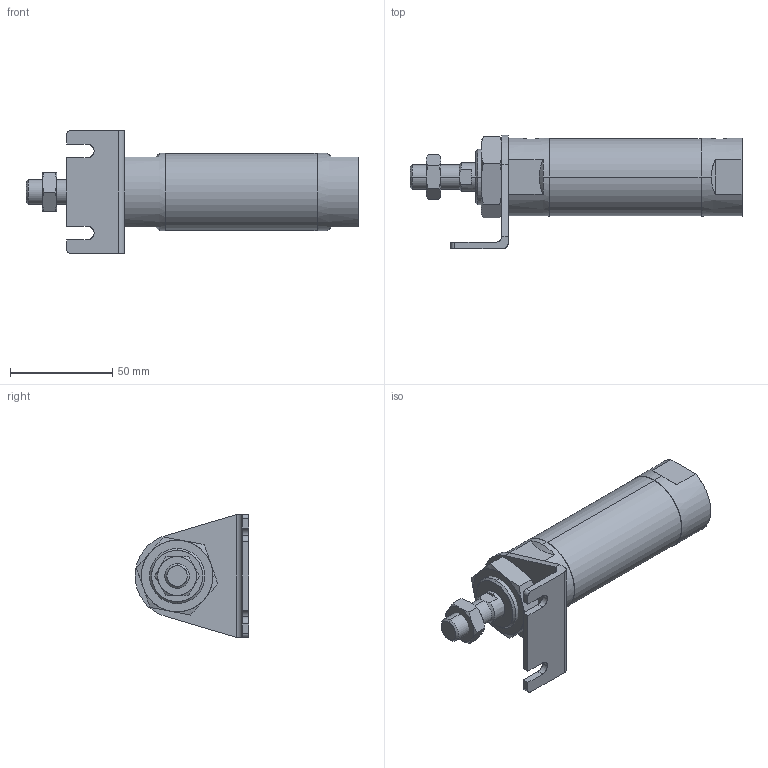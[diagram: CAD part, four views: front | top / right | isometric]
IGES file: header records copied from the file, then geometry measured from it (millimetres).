
Start section: SolidWorks IGES file using analytic representation for surfaces
Global section: file name: C:\Users\Toshiba\Desktop\JGND2-32-25-L.IGS; native system: SolidWorks 2014; preprocessor: SolidWorks 2014; author: Toshiba; date: 160804.104707; units: millimetre
Bounding box: 162 x 55.5 x 60 mm (x, y, z)
Surface area: 31263.2 mm2 (no closed solid volume)
Topology: 0 solids, 0 shells, 116 faces, 1918 edges, 1914 vertices
Faces by surface type: bspline 71, revolution 45
